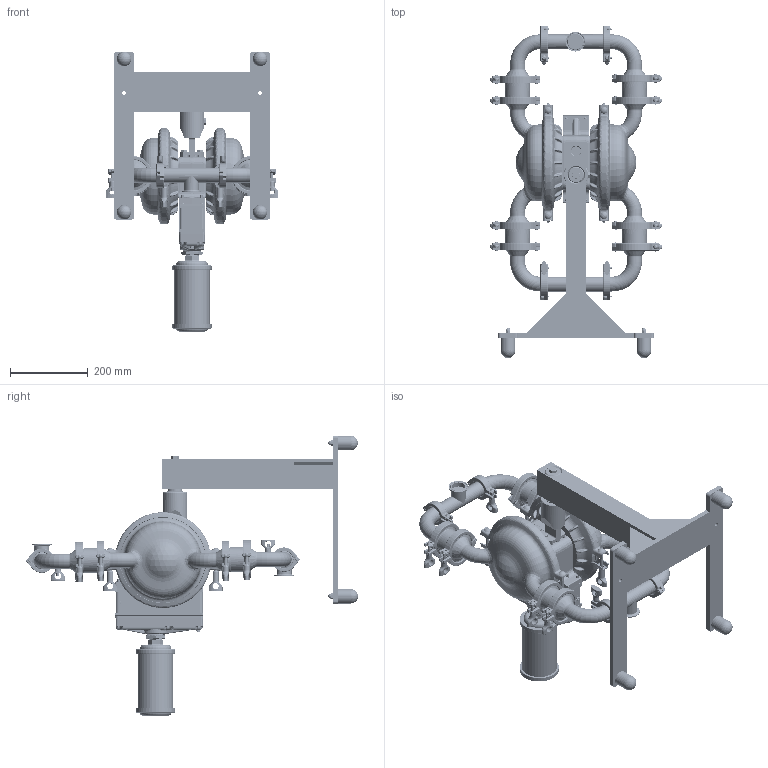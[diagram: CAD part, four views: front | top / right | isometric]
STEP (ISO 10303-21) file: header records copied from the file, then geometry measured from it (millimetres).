
FILE_DESCRIPTION (( 'STEP AP214' ), '1' );
FILE_NAME ('ps4_ss_saniflo_hs_swivel_vb 1.STEP', '2025-12-03T13:18:42', ( '' ), ( '' ), 'SwSTEP 2.0', 'SolidWorks 2022', '' );
FILE_SCHEMA (( 'AUTOMOTIVE_DESIGN' ));
Products named in the file (1): ps4_ss_saniflo_hs_swivel_vb 1
Bounding box: 444.02 x 852.59 x 721.37 mm (x, y, z)
Volume: 16761551.9 mm3; surface area: 1454501.3 mm2
Topology: 1 solids, 10 shells, 10164 faces, 25734 edges, 15693 vertices
Faces by surface type: plane 3960, cylinder 2111, bspline 1892, torus 1235, cone 580, sphere 386
Entity records: 561649 total; most frequent: CARTESIAN_POINT 332765, ORIENTED_EDGE 50968, DIRECTION 43535, EDGE_CURVE 25484, VERTEX_POINT 15635, AXIS2_PLACEMENT_3D 15608, VECTOR 12319, LINE 12319
